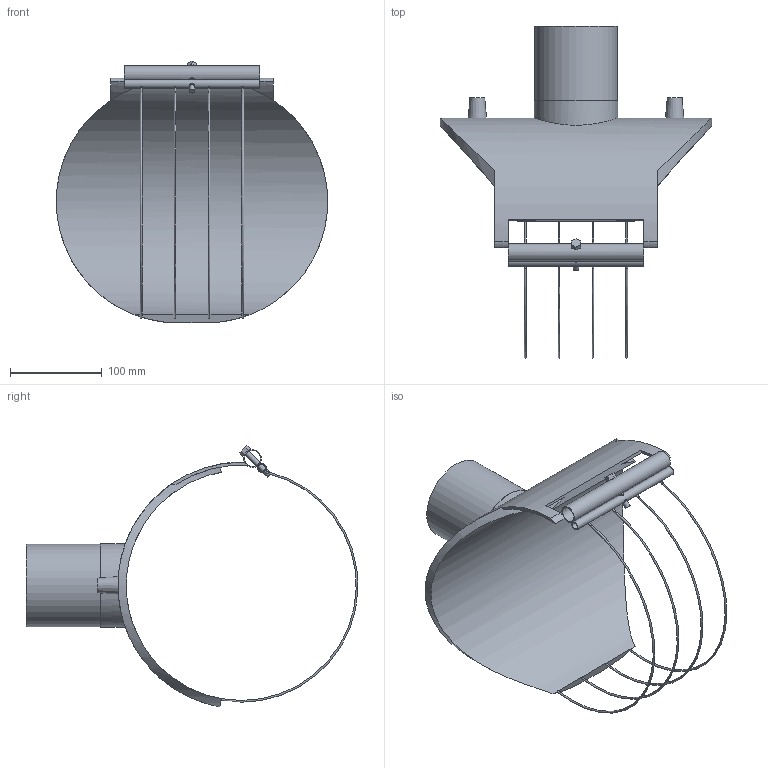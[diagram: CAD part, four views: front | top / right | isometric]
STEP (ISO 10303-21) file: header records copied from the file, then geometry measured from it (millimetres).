
FILE_DESCRIPTION(/* description */ ('Plasson Branch Saddle 250x90'),/* implementation_level */ '2;1');
FILE_NAME(/* name */ 'C:\Dropbox\KIMPROJECTS-Inventor 2019\99-16-3568-Processing\ElectroFusion Fittings\4958X4\4958X4250090T.stp',/* time_stamp */ '2025-05-07T12:15:41+03:00',/* author */ ('KIM'),/* organization */ (''),/* preprocessor_version */ 'ST-DEVELOPER v18.1',/* originating_system */ 'Autodesk Inventor 2021',/* authorisation */ '');
FILE_SCHEMA (('AUTOMOTIVE_DESIGN { 1 0 10303 214 3 1 1 }'));
Length unit declared in the file: millimetre
Products named in the file (1): 4958X4250090T
Bounding box: 295 x 360.93 x 284.56 mm (x, y, z)
Volume: 1001390.9 mm3; surface area: 275598 mm2
Topology: 1 solids, 1 shells, 63 faces, 178 edges, 115 vertices
Faces by surface type: cylinder 28, plane 25, torus 8, cone 2
Full cylindrical faces by diameter (mm): 6 x3, 7.6 x1, 8 x1, 16 x1, 17.2 x1, 73 x1, 90 x1, 91 x1
Entity records: 2953 total; most frequent: CARTESIAN_POINT 1258, ORIENTED_EDGE 360, DIRECTION 331, EDGE_CURVE 180, AXIS2_PLACEMENT_3D 135, VERTEX_POINT 115, EDGE_LOOP 81, CIRCLE 67
